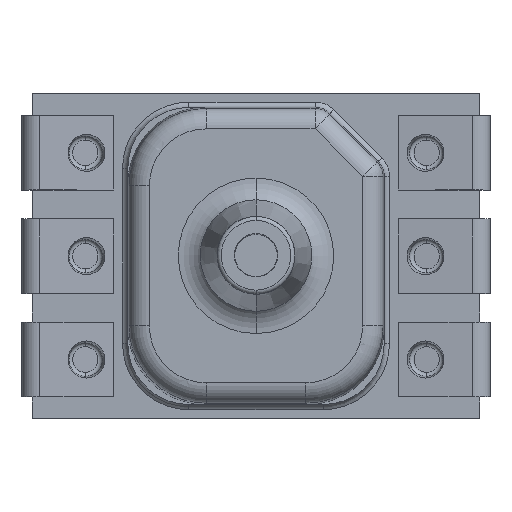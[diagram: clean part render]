
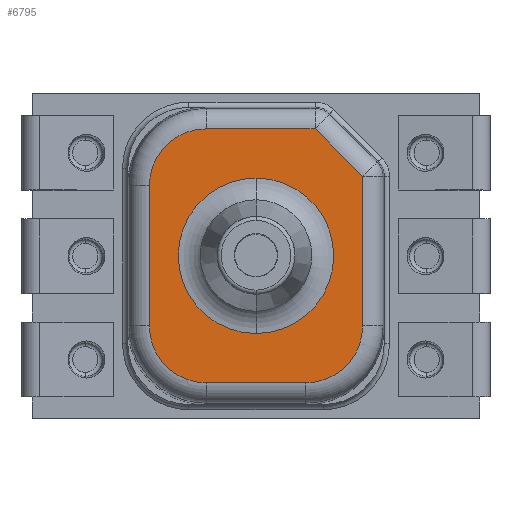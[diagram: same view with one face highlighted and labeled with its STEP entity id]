
A CAD part, top view. The second image highlights one B-rep face of the part: STEP entity #6795.
In plain terms, the highlighted planar face has unit normal (0, 0, 1).
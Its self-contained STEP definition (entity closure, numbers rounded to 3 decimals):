
#1091=CARTESIAN_POINT('',(28.821,-41.721,2.33));
#1092=DIRECTION('',(0.,0.,-1.));
#1093=DIRECTION('',(1.,0.,0.));
#1094=AXIS2_PLACEMENT_3D('',#1091,#1092,#1093);
#1106=DIRECTION('',(-1.,0.,0.));
#1107=VECTOR('',#1106,2.441);
#1108=CARTESIAN_POINT('',(28.82,-43.12,2.33));
#1109=LINE('',#1108,#1107);
#1139=CARTESIAN_POINT('',(27.6,-40.,2.33));
#1140=DIRECTION('',(0.,0.,-1.));
#1141=DIRECTION('',(-0.018,-1.,0.));
#1142=AXIS2_PLACEMENT_3D('',#1139,#1140,#1141);
#1144=CARTESIAN_POINT('',(27.6,-40.,2.33));
#1145=DIRECTION('',(0.,0.,-1.));
#1146=DIRECTION('',(0.018,1.,0.));
#1147=AXIS2_PLACEMENT_3D('',#1144,#1145,#1146);
#1149=DIRECTION('',(-0.707,0.707,0.));
#1150=VECTOR('',#1149,1.654);
#1151=CARTESIAN_POINT('',(30.22,-38.049,2.33));
#1152=LINE('',#1151,#1150);
#1153=CARTESIAN_POINT('',(26.379,-41.721,2.33));
#1154=DIRECTION('',(0.,0.,1.));
#1155=DIRECTION('',(-1.,0.,0.));
#1156=AXIS2_PLACEMENT_3D('',#1153,#1154,#1155);
#1163=CARTESIAN_POINT('',(27.6,-40.,2.33));
#1164=DIRECTION('',(0.,0.,1.));
#1165=DIRECTION('',(0.018,1.,0.));
#1166=AXIS2_PLACEMENT_3D('',#1163,#1164,#1165);
#1183=CARTESIAN_POINT('',(27.6,-40.,2.33));
#1184=DIRECTION('',(0.,0.,1.));
#1185=DIRECTION('',(-0.018,-1.,0.));
#1186=AXIS2_PLACEMENT_3D('',#1183,#1184,#1185);
#1383=DIRECTION('',(0.,-1.,0.));
#1384=VECTOR('',#1383,3.671);
#1385=CARTESIAN_POINT('',(30.22,-38.049,2.33));
#1386=LINE('',#1385,#1384);
#1402=DIRECTION('',(1.,0.,0.));
#1403=VECTOR('',#1402,2.671);
#1404=CARTESIAN_POINT('',(26.38,-36.88,2.33));
#1405=LINE('',#1404,#1403);
#1410=CARTESIAN_POINT('',(26.379,-38.279,2.33));
#1411=DIRECTION('',(0.,0.,-1.));
#1412=DIRECTION('',(-1.,0.,0.));
#1413=AXIS2_PLACEMENT_3D('',#1410,#1411,#1412);
#1425=DIRECTION('',(0.,1.,0.));
#1426=VECTOR('',#1425,3.441);
#1427=CARTESIAN_POINT('',(24.98,-41.72,2.33));
#1428=LINE('',#1427,#1426);
#4724=CARTESIAN_POINT('',(26.38,-43.12,2.33));
#4725=VERTEX_POINT('',#4724);
#4726=CARTESIAN_POINT('',(24.98,-41.72,2.33));
#4727=VERTEX_POINT('',#4726);
#4728=CARTESIAN_POINT('',(28.82,-43.12,2.33));
#4729=VERTEX_POINT('',#4728);
#4732=CARTESIAN_POINT('',(30.22,-38.049,2.33));
#4733=CARTESIAN_POINT('',(30.22,-41.72,2.33));
#4734=VERTEX_POINT('',#4732);
#4735=VERTEX_POINT('',#4733);
#4736=CARTESIAN_POINT('',(24.98,-38.28,2.33));
#4737=VERTEX_POINT('',#4736);
#4738=CARTESIAN_POINT('',(26.38,-36.88,2.33));
#4739=VERTEX_POINT('',#4738);
#4740=CARTESIAN_POINT('',(29.051,-36.88,2.33));
#4741=VERTEX_POINT('',#4740);
#4742=CARTESIAN_POINT('',(27.566,-41.91,2.33));
#4743=CARTESIAN_POINT('',(27.6,-41.91,2.33));
#4744=VERTEX_POINT('',#4742);
#4745=VERTEX_POINT('',#4743);
#4746=CARTESIAN_POINT('',(27.6,-38.09,2.33));
#4747=VERTEX_POINT('',#4746);
#4748=CARTESIAN_POINT('',(27.634,-38.09,2.33));
#4749=VERTEX_POINT('',#4748);
#6765=CARTESIAN_POINT('',(27.6,-40.,2.33));
#6766=DIRECTION('',(0.,0.,1.));
#6767=DIRECTION('',(0.,-1.,0.));
#6768=AXIS2_PLACEMENT_3D('',#6765,#6766,#6767);
#6769=PLANE('',#6768);
#6771=ORIENTED_EDGE('',*,*,#6770,.F.);
#6773=ORIENTED_EDGE('',*,*,#6772,.T.);
#6774=ORIENTED_EDGE('',*,*,#6730,.T.);
#6775=ORIENTED_EDGE('',*,*,#6744,.T.);
#6776=ORIENTED_EDGE('',*,*,#6756,.F.);
#6778=ORIENTED_EDGE('',*,*,#6777,.T.);
#6780=ORIENTED_EDGE('',*,*,#6779,.T.);
#6782=ORIENTED_EDGE('',*,*,#6781,.T.);
#6783=EDGE_LOOP('',(#6771,#6773,#6774,#6775,#6776,#6778,#6780,#6782));
#6784=FACE_OUTER_BOUND('',#6783,.F.);
#6786=ORIENTED_EDGE('',*,*,#6785,.T.);
#6788=ORIENTED_EDGE('',*,*,#6787,.F.);
#6790=ORIENTED_EDGE('',*,*,#6789,.T.);
#6792=ORIENTED_EDGE('',*,*,#6791,.F.);
#6793=EDGE_LOOP('',(#6786,#6788,#6790,#6792));
#6794=FACE_BOUND('',#6793,.F.);
#6795=ADVANCED_FACE('',(#6784,#6794),#6769,.T.);
#1095=CIRCLE('',#1094,1.4);
#1143=CIRCLE('',#1142,1.91);
#1148=CIRCLE('',#1147,1.91);
#1157=CIRCLE('',#1156,1.4);
#1167=CIRCLE('',#1166,1.91);
#1187=CIRCLE('',#1186,1.91);
#1414=CIRCLE('',#1413,1.4);
#6730=EDGE_CURVE('',#4735,#4729,#1095,.T.);
#6744=EDGE_CURVE('',#4729,#4725,#1109,.T.);
#6756=EDGE_CURVE('',#4727,#4725,#1157,.T.);
#6770=EDGE_CURVE('',#4734,#4741,#1152,.T.);
#6772=EDGE_CURVE('',#4734,#4735,#1386,.T.);
#6777=EDGE_CURVE('',#4727,#4737,#1428,.T.);
#6779=EDGE_CURVE('',#4737,#4739,#1414,.T.);
#6781=EDGE_CURVE('',#4739,#4741,#1405,.T.);
#6785=EDGE_CURVE('',#4749,#4747,#1167,.T.);
#6787=EDGE_CURVE('',#4744,#4747,#1143,.T.);
#6789=EDGE_CURVE('',#4744,#4745,#1187,.T.);
#6791=EDGE_CURVE('',#4749,#4745,#1148,.T.);
